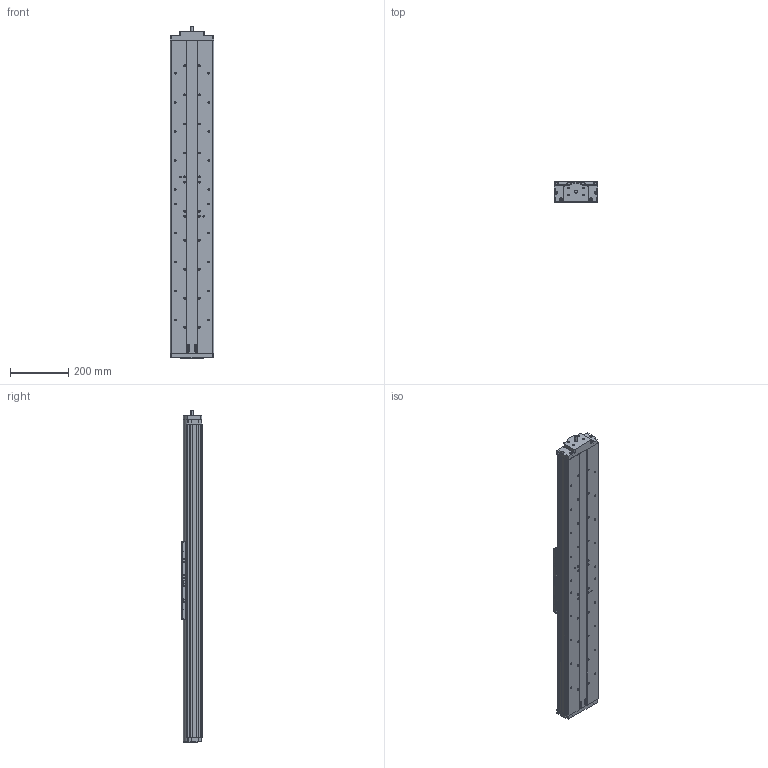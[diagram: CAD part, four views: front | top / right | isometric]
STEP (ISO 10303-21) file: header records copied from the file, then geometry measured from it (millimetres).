
FILE_DESCRIPTION((''),'2;1');
FILE_NAME('406XR-08_ASM','2002-07-12T',('FKrakosh'),(''),'PRO/ENGINEER BY PARAMETRIC TECHNOLOGY CORPORATION, 2000420','PRO/ENGINEER BY PARAMETRIC TECHNOLOGY CORPORATION, 2000420','');
FILE_SCHEMA(('CONFIG_CONTROL_DESIGN'));
Length unit declared in the file: millimetre
Products named in the file (8): 406XR-BASE-08; 406XR-REAR-END-BLK; 406XR-CARRIAGE; 10853610-01; 406XR-FEB-10MM; 10426110; 30321911; 406XR-08_ASM
Assembly tree (8 placements, depth 2):
  406XR-08_ASM
    406XR-BASE-08
    406XR-REAR-END-BLK
    406XR-CARRIAGE
    10853610-01  x2
    406XR-FEB-10MM
    10426110
    30321911
Bounding box: 150 x 69.9 x 1142.73 mm (x, y, z)
Volume: 9640257.1 mm3; surface area: 730153.3 mm2
Topology: 8 solids, 66 shells, 948 faces, 2348 edges, 1572 vertices
Faces by surface type: cylinder 494, plane 424, bspline 16, sphere 12, cone 2
Entity records: 26932 total; most frequent: CARTESIAN_POINT 5764, DIRECTION 4678, ORIENTED_EDGE 3958, EDGE_CURVE 2091, AXIS2_PLACEMENT_3D 1813, VERTEX_POINT 1415, EDGE_LOOP 1062, VECTOR 1052
